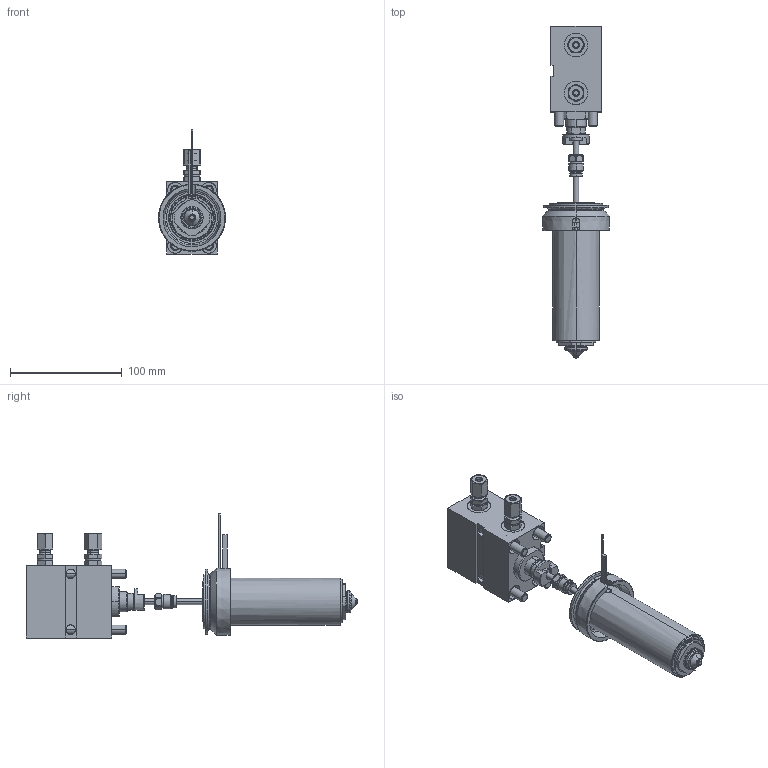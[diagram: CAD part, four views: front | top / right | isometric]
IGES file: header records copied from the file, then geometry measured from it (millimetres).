
Start section: Write IGES format                                    datakit 2008 (c)
Global section: file name: Unknown; native system: DATAKIT Converter; preprocessor: Unknown; author: Unknown; organization: Unknown; date: 950613.180003; units: millimetre
Bounding box: 59.94 x 297.5 x 111.15 mm (x, y, z)
Surface area: 160634.8 mm2 (no closed solid volume)
Topology: 0 solids, 0 shells, 787 faces, 3556 edges, 3538 vertices
Faces by surface type: revolution 508, bspline 279
